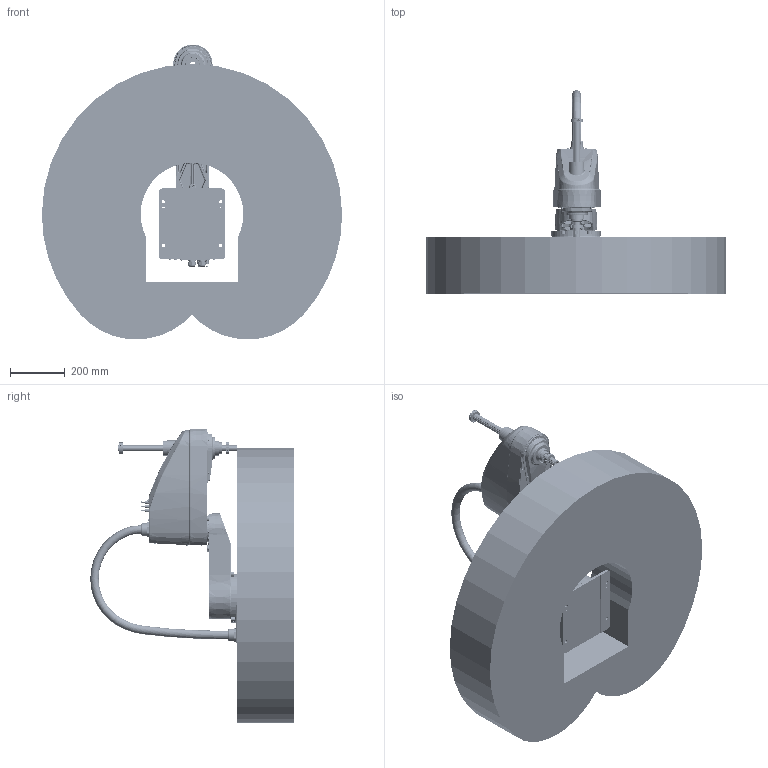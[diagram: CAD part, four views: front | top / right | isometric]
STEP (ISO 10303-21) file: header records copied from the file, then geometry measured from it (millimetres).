
FILE_DESCRIPTION (( 'STEP AP203' ), '1' );
FILE_NAME ('Python550-B10勤俋耀倰.STEP', '2025-01-13T06:49:59', ( '' ), ( '' ), 'SwSTEP 2.0', 'SolidWorks 2021', '' );
FILE_SCHEMA (( 'CONFIG_CONTROL_DESIGN' ));
Length unit declared in the file: millimetre
Products named in the file (64): 复件 1.220BA.21.001.0^复件 底座_Python550-B10对外模型_默认<按加工>; 复件 内六角圆柱头螺钉 M4×10 12.9级碳钢镀镍 GBT70.1^复件 小臂部分_Python550-B10对外模型_M4*6; 复件 4.01008.00.127.0 PG29波纹管接头^复件 1.220BA.12.000.0_Python550-B10对外模型_金属螺母; 复件 M22塑接头螺帽^复件 M22塑接头_复件 1.220BA.12.000.0_Python550-B10对外模型; 复件 塑接头螺母^复件 M22塑接头_复件 1.220BA.12.000.0_Python550-B10对外模型; 复件 2.00601.02.057.A APM6__3_^复件 1.220BA.12.000.0_Python550-B10对外模型; 复件 M22塑接头^复件 1.220BA.12.000.0_Python550-B10对外模型; 复件 1.220BA.23.001.0^复件 小臂部分_Python550-B10对外模型; 复件 1.220BA.23.201.0^复件 1.220BA.23.200.0_复件 小臂部分_Python550-B10对外模型; 复件 PG29波纹管接头螺母金属20211101^复件 4.01008.00.127.0 PG29波纹管接头_复件 1.220BA.12.000.0_Python550-B10对外模型; 复件 6666999^复件 44555555_复件 1.220BA.23.200.0_复件 小臂部分_Python550-B10对外模型; 复件 1.220BA.12.002.0^复件 1.220BA.12.000.0_Python550-B10对外模型; 复件 Python550-B10E工作空间^Python550-B10对外模型; 复件 内六角圆柱头螺钉 M5×40 12.9级碳钢镀镍 GBT70.1^复件 1.220BA.22.000.0_Python550-B10对外模型_M5*8; 复件 PG29波纹管接头螺帽^复件 4.01008.00.127.0 PG29波纹管接头_复件 1.220BA.12.000.0_Python550-B10对外模型; 复件 孔塞^复件 1.220BA.12.000.0_Python550-B10对外模型; 复件 小臂部分^Python550-B10对外模型_新宝减速机; 复件 1.220BA.22.000.0^Python550-B10对外模型_新宝减速机; 复件 内六角圆柱头螺钉 M6×20 12.9级碳钢镀镍 GBT70.1^复件 1.220BA.22.000.0_Python550-B10对外模型_M6*20; 复件 PG29波纹管接头^复件 4.01008.00.127.0 PG29波纹管接头_复件 1.220BA.12.000.0_Python550-B10对外模型; 复件 M22塑接头^复件 M22塑接头_复件 1.220BA.12.000.0_Python550-B10对外模型; 复件 内六角圆柱头螺钉 M4×40 12.9级碳钢镀镍 GBT70.1^复件 小臂部分_Python550-B10对外模型_M4*6; 复件 内六角圆柱头螺钉 M5×16 12.9级碳钢镀镍 GBT70.1^复件 1.220BA.23.200.0_复件 小臂部分_Python550-B10对外模型_M5*8; 复件 44555555^复件 1.220BA.23.200.0_复件 小臂部分_Python550-B10对外模型; 复件 1.220BA.23.202.0^复件 1.220BA.23.200.0_复件 小臂部分_Python550-B10对外模型; 复件 十字槽盘头螺钉 M4×8 12.9级碳钢镀镍 GBT818^复件 1.220BA.12.000.0_Python550-B10对外模型_M4*10; 复件 4.00603.01.003.0带灯按钮短^复件 1.220BA.12.000.0_Python550-B10对外模型; Python550-B10勤俋耀倰; 复件 内六角圆柱头螺钉 M4×30 12.9级碳钢镀镍 GBT70.1^复件 小臂部分_Python550-B10对外模型_M4*6; 复件 内六角圆柱头螺钉 M6×20 12.9级碳钢镀镍 GBT70.1^复件 小臂部分_Python550-B10对外模型_M6*20; 复件 1.220BA.22.004.0^复件 1.220BA.22.000.0_Python550-B10对外模型; 复件 1.220BA.23.200.0^复件 小臂部分_Python550-B10对外模型_三轴零点; 复件 PP6-管塞^复件 1.220BA.12.000.0_Python550-B10对外模型; 复件 2.00601.02.058.A APM4__3_^复件 1.220BA.12.000.0_Python550-B10对外模型; 复件 1.220BA.23.006.0^复件 小臂部分_Python550-B10对外模型; 复件 底座^Python550-B10对外模型_格兰头出现; 复件 1.220BA.12.000.0^Python550-B10对外模型_新宝减速机; 复件 DB15接头^复件 1.220BA.12.000.0_Python550-B10对外模型; 复件 111110000022222^复件 1.220BA.22.000.0_Python550-B10对外模型; 复件 333333^复件 小臂部分_Python550-B10对外模型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
Assembly tree (172 placements, depth 5):
  Python550-B10勤俋耀倰
    复件 底座^Python550-B10对外模型_格兰头出现
      复件 1.220BA.21.001.0^复件 底座_Python550-B10对外模型_默认<按加工>
      复件 十字槽盘头螺钉 M4×8 12.9级碳钢镀镍 GBT818^复件 底座_Python550-B10对外模型_M4*10  x9
    复件 1.220BA.22.000.0^Python550-B10对外模型_新宝减速机
      复件 1.210A6.21.012.A^复件 1.220BA.22.000.0_Python550-B10对外模型  x2
      复件 1.220BA.22.001.0^复件 1.220BA.22.000.0_Python550-B10对外模型
      复件 1.220BA.22.002.0^复件 1.220BA.22.000.0_Python550-B10对外模型  x2
      复件 1.220BA.22.004.0^复件 1.220BA.22.000.0_Python550-B10对外模型
      复件 111110000022222^复件 1.220BA.22.000.0_Python550-B10对外模型
      复件 44455858585器^复件 1.220BA.22.000.0_Python550-B10对外模型
      复件 内六角圆柱头螺钉 M6×20 12.9级碳钢镀镍 GBT70.1^复件 1.220BA.22.000.0_Python550-B10对外模型_M6*20  x16
      复件 内六角圆柱头螺钉 M5×45 12.9级碳钢镀镍 GBT70.1^复件 1.220BA.22.000.0_Python550-B10对外模型_M5*8
      复件 内六角圆柱头螺钉 M5×40 12.9级碳钢镀镍 GBT70.1^复件 1.220BA.22.000.0_Python550-B10对外模型_M5*8  x16
      复件 标准型弹性垫圈(装配) φ6 A4-70（316）  GB／T93^复件 1.220BA.22.000.0_Python550-B10对外模型_6*1.6  x4
      复件 标准型弹性垫圈(装配) 5×1.3 （A2）304  GB／T93^复件 1.220BA.22.000.0_Python550-B10对外模型_5*1.3  x16
    复件 小臂部分^Python550-B10对外模型_新宝减速机
      复件 1.240BA.23.219.A^复件 小臂部分_Python550-B10对外模型
      复件 1.220BA.23.001.0^复件 小臂部分_Python550-B10对外模型
      复件 1.220BA.23.006.0^复件 小臂部分_Python550-B10对外模型  x2
      复件 333333^复件 小臂部分_Python550-B10对外模型
      复件 内六角圆柱头螺钉 M4×6 12.9级碳钢镀镍 GBT70.1^复件 小臂部分_Python550-B10对外模型_M4*6
      复件 内六角圆柱头螺钉 M4×10 12.9级碳钢镀镍 GBT70.1^复件 小臂部分_Python550-B10对外模型_M4*6  x4
      复件 内六角圆柱头螺钉 M4×25 12.9级碳钢镀镍 GBT70.1^复件 小臂部分_Python550-B10对外模型_M4*6
      复件 内六角圆柱头螺钉 M4×30 12.9级碳钢镀镍 GBT70.1^复件 小臂部分_Python550-B10对外模型_M4*6  x12
      复件 内六角圆柱头螺钉 M4×40 12.9级碳钢镀镍 GBT70.1^复件 小臂部分_Python550-B10对外模型_M4*6  x5
      复件 内六角圆柱头螺钉 M6×20 12.9级碳钢镀镍 GBT70.1^复件 小臂部分_Python550-B10对外模型_M6*20  x2
      复件 十字槽盘头螺钉 M4×8 12.9级碳钢镀镍 GBT818^复件 小臂部分_Python550-B10对外模型_M4*10  x12
      复件 1.220BA.23.004.0^复件 小臂部分_Python550-B10对外模型
      复件 1.220BA.23.200.0^复件 小臂部分_Python550-B10对外模型_三轴零点
        复件 44555555^复件 1.220BA.23.200.0_复件 小臂部分_Python550-B10对外模型
          复件 555888^复件 44555555_复件 1.220BA.23.200.0_复件 小臂部分_Python550-B10对外模型
          复件 6668888^复件 44555555_复件 1.220BA.23.200.0_复件 小臂部分_Python550-B10对外模型
          复件 6666999^复件 44555555_复件 1.220BA.23.200.0_复件 小臂部分_Python550-B10对外模型
        复件 1.220BA.23.201.0^复件 1.220BA.23.200.0_复件 小臂部分_Python550-B10对外模型
        复件 1.220BA.23.202.0^复件 1.220BA.23.200.0_复件 小臂部分_Python550-B10对外模型
        复件 1.240BA.23.003.0^复件 1.220BA.23.200.0_复件 小臂部分_Python550-B10对外模型
        复件 内六角圆柱头螺钉 M4×12 12.9级碳钢镀镍 GBT70.1^复件 1.220BA.23.200.0_复件 小臂部分_Python550-B10对外模型_M4*6
        复件 内六角圆柱头螺钉 M4×16 12.9级碳钢镀镍 GBT70.1^复件 1.220BA.23.200.0_复件 小臂部分_Python550-B10对外模型_M4*6
        复件 内六角圆柱头螺钉 M5×16 12.9级碳钢镀镍 GBT70.1^复件 1.220BA.23.200.0_复件 小臂部分_Python550-B10对外模型_M5*8
        复件 轴用弹性挡圈A型 φ25-SUS304 GBT894^复件 1.220BA.23.200.0_复件 小臂部分_Python550-B10对外模型_25
    复件 1.220BA.12.000.0^Python550-B10对外模型_新宝减速机
      复件 1.220BA.12.001.0^复件 1.220BA.12.000.0_Python550-B10对外模型
      复件 1.220BA.12.002.0^复件 1.220BA.12.000.0_Python550-B10对外模型
      复件 2.00601.02.058.A APM4__3_^复件 1.220BA.12.000.0_Python550-B10对外模型  x4
      复件 2.00601.02.057.A APM6__3_^复件 1.220BA.12.000.0_Python550-B10对外模型  x4
      复件 PP4-管塞^复件 1.220BA.12.000.0_Python550-B10对外模型  x4
      复件 PP6-管塞^复件 1.220BA.12.000.0_Python550-B10对外模型  x4
      复件 孔塞^复件 1.220BA.12.000.0_Python550-B10对外模型
      复件 DB15接头^复件 1.220BA.12.000.0_Python550-B10对外模型  x2
      复件 4.00603.01.003.0带灯按钮短^复件 1.220BA.12.000.0_Python550-B10对外模型
      复件 1.220BA.12.000.DPython550-B10波纹管^复件 1.220BA.12.000.0_Python550-B10对外模型
      复件 4.01008.00.127.0 PG29波纹管接头^复件 1.220BA.12.000.0_Python550-B10对外模型_金属螺母  x2
        复件 PG29波纹管接头^复件 4.01008.00.127.0 PG29波纹管接头_复件 1.220BA.12.000.0_Python550-B10对外模型
        复件 PG29波纹管接头螺帽^复件 4.01008.00.127.0 PG29波纹管接头_复件 1.220BA.12.000.0_Python550-B10对外模型
        复件 PG29波纹管接头螺母^复件 4.01008.00.127.0 PG29波纹管接头_复件 1.220BA.12.000.0_Python550-B10对外模型
        复件 PG29波纹管接头螺母金属20211101^复件 4.01008.00.127.0 PG29波纹管接头_复件 1.220BA.12.000.0_Python550-B10对外模型
      复件 M22塑接头^复件 1.220BA.12.000.0_Python550-B10对外模型  x2
        复件 M22塑接头^复件 M22塑接头_复件 1.220BA.12.000.0_Python550-B10对外模型
        复件 M22塑接头螺帽^复件 M22塑接头_复件 1.220BA.12.000.0_Python550-B10对外模型
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Bounding box: 1100 x 745.68 x 1080.38 mm (x, y, z)
Volume: 164643531.8 mm3; surface area: 4827697.7 mm2
Topology: 187 solids, 280 shells, 8622 faces, 20338 edges, 12511 vertices
Faces by surface type: cylinder 3112, plane 2846, cone 1106, torus 770, bspline 614, sphere 174
Entity records: 218757 total; most frequent: CARTESIAN_POINT 69949, DIRECTION 29823, ORIENTED_EDGE 28537, EDGE_CURVE 14341, AXIS2_PLACEMENT_3D 12247, VERTEX_POINT 8989, EDGE_LOOP 6975, CIRCLE 6662
